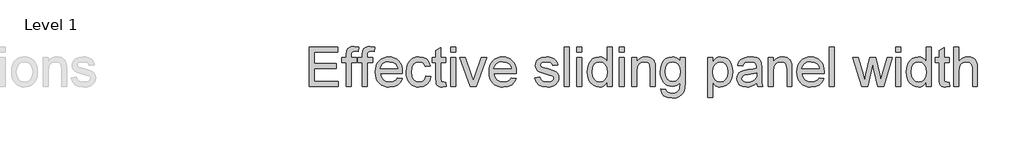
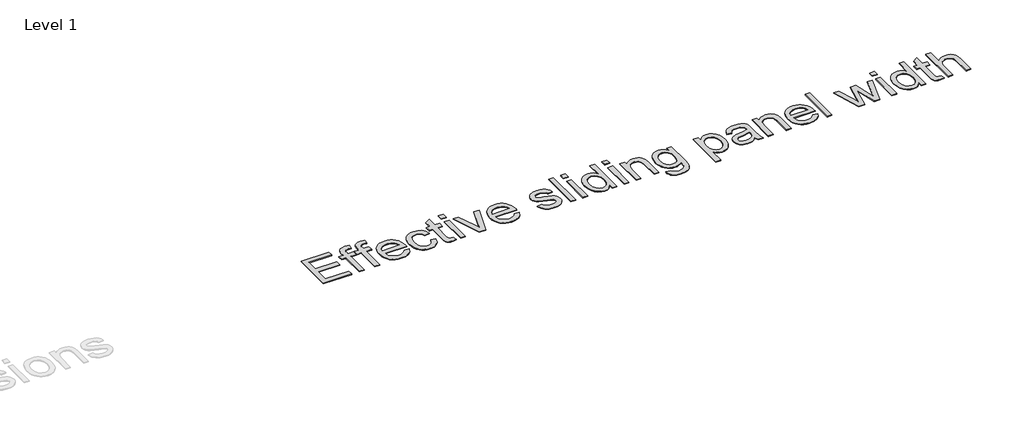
# One storey, part 39 of 69: 1 proxy.
"""IFC4 building model written with IfcOpenShell, lengths in millimetres."""

from ifc_helpers import new_model, si_unit, origin, origin_with_axes, place, context, project, spatial, polyline, outline, extrude, element, save

model = new_model("IFC4")

# Units and contexts
model_context = context("Model", 3, world=origin())
ifc_project = project(units=[si_unit("LENGTHUNIT", "METRE", prefix="MILLI")], contexts=[model_context])

# Site, building, storey
site = spatial("IfcSite", under=ifc_project)
building = spatial("IfcBuilding", under=site)
storey = spatial("IfcBuildingStorey", under=building, Name="Level 1", Elevation=0.0)

# Proxy
placement = place(None, origin())
element("IfcBuildingElementProxy", 1, Name="300mm Arial", ObjectType="300mm Arial", at=placement, inside=storey, context=model_context, shape_type="SweptSolid", body=[
    extrude(outline(polyline([(239630.4854675, -7149.8638198), (239630.4854675, -6848.4948894), (239847.0943862, -6848.4948894), (239847.0943862, -6886.1660057), (239668.1565838, -6886.1660057), (239668.1565838, -6975.6349069), (239837.6766072, -6975.6349069), (239837.6766072, -7013.3060232), (239668.1565838, -7013.3060232), (239668.1565838, -7112.1927035), (239851.8032758, -7112.1927035), (239851.8032758, -7149.8638198), (239630.4854675, -7149.8638198)])), origin_with_axes(), (0.0, 0.0, 1.0), 5.0),
    extrude(outline(polyline([(239913.0188398, -7149.8638198), (239913.0188398, -6966.2171278), (239880.056613, -6966.2171278), (239880.056613, -6928.5460115), (239913.0188398, -6928.5460115), (239913.0188398, -6906.2523626), (239916.9919653, -6874.8352402), (239924.5703344, -6862.3088583), (239936.2689819, -6852.3944385), (239952.6397307, -6845.9381095), (239974.2344038, -6843.7859998), (240008.5945821, -6847.9062782), (240003.0763522, -6883.2229497), (239981.3713145, -6881.4571161), (239967.0515078, -6883.0206146), (239957.6429258, -6887.7111101), (239952.4281985, -6896.6690366), (239950.6899561, -6911.0348286), (239950.6899561, -6928.5460115), (239993.0699619, -6928.5460115), (239993.0699619, -6966.2171278), (239950.6899561, -6966.2171278), (239950.6899561, -7149.8638198), (239913.0188398, -7149.8638198)])), origin_with_axes(), (0.0, 0.0, 1.0), 5.0),
    extrude(outline(polyline([(240035.4499678, -7149.8638198), (240035.4499678, -6966.2171278), (240002.487741, -6966.2171278), (240002.487741, -6928.5460115), (240035.4499678, -6928.5460115), (240035.4499678, -6906.2523626), (240039.4230933, -6874.8352402), (240047.0014624, -6862.3088583), (240058.7001099, -6852.3944385), (240075.0708587, -6845.9381095), (240096.6655318, -6843.7859998), (240131.0257101, -6847.9062782), (240125.5074802, -6883.2229497), (240103.8024425, -6881.4571161), (240089.4826358, -6883.0206146), (240080.0740538, -6887.7111101), (240074.8593265, -6896.6690366), (240073.1210841, -6911.0348286), (240073.1210841, -6928.5460115), (240115.5010899, -6928.5460115), (240115.5010899, -6966.2171278), (240073.1210841, -6966.2171278), (240073.1210841, -7149.8638198), (240035.4499678, -7149.8638198)])), origin_with_axes(), (0.0, 0.0, 1.0), 5.0),
    extrude(outline(polyline([(240303.4152131, -7083.9393663), (240340.3505654, -7088.6482558), (240327.0424342, -7116.4785288), (240305.806446, -7137.2822556), (240277.1208475, -7150.2500959), (240241.4638851, -7154.5727094), (240218.0895828, -7152.7080075), (240197.2628634, -7147.1139019), (240178.9837267, -7137.7903926), (240163.2521729, -7124.7374796), (240150.6016308, -7108.3184463), (240141.5655293, -7088.8965762), (240136.1438684, -7066.4718693), (240134.3366481, -7041.0443257), (240136.1622625, -7014.7545586), (240141.6391057, -6991.5825914), (240150.7671777, -6971.5284241), (240163.5464785, -6954.5920568), (240179.2366456, -6941.1367728), (240197.0973165, -6931.5258557), (240217.1284911, -6925.7593054), (240239.3301695, -6923.837122), (240260.8167773, -6925.7547069), (240280.2478444, -6931.5074616), (240297.6233709, -6941.0953861), (240312.9433567, -6954.5184804), (240325.4490453, -6971.4180595), (240334.38168, -6991.4354386), (240339.7412608, -7014.5706176), (240341.5277878, -7040.8235965), (240341.3070586, -7050.9771395), (240172.0077644, -7050.9771395), (240178.5284728, -7079.1752945), (240193.6760139, -7099.9054449), (240215.5374015, -7112.652556), (240242.1996491, -7116.9015931), (240262.2492178, -7114.9334244), (240279.1350014, -7109.0289184), (240292.8569998, -7098.820193), (240303.4152131, -7083.9393663)]), holes=[polyline([(240172.0077644, -7013.3060232), (240303.8566715, -7013.3060232), (240298.7615058, -6993.4036073), (240288.7735097, -6979.1665741), (240266.8109545, -6965.9228222), (240239.1830167, -6961.5082383), (240213.789962, -6965.0307084), (240192.7930971, -6975.5981187), (240178.197379, -6992.070035), (240172.0077644, -7013.3060232)])]), origin_with_axes(), (0.0, 0.0, 1.0), 5.0),
    extrude(outline(polyline([(240520.4655902, -7069.8126977), (240558.1367065, -7074.5215872), (240547.6336756, -7108.0264399), (240527.8968065, -7133.3459182), (240500.7839035, -7149.2660116), (240468.1527705, -7154.5727094), (240447.0248477, -7152.7218031), (240428.0812242, -7147.1690842), (240411.3219, -7137.9145528), (240396.7468752, -7124.9582088), (240384.9493595, -7108.543774), (240376.5225626, -7088.9149703), (240371.4664844, -7066.0717976), (240369.781125, -7040.0142561), (240372.6598016, -7006.4910093), (240381.2958314, -6977.4375287), (240395.8271703, -6953.9758544), (240416.3917738, -6937.2280266), (240440.9938822, -6927.1848481), (240467.6377357, -6923.837122), (240499.4687253, -6928.4356469), (240524.9169624, -6942.2312218), (240543.1731064, -6964.4880825), (240553.427817, -6994.4704651), (240515.7567007, -6999.1793546), (240508.9232926, -6982.7442265), (240498.2823059, -6970.9628056), (240484.4223517, -6963.8718801), (240467.9320413, -6961.5082383), (240443.5874503, -6966.1619455), (240424.2644485, -6980.1230673), (240411.6552931, -7004.1457615), (240407.4522413, -7038.9841865), (240411.5633226, -7074.291661), (240423.8965665, -7098.3971287), (240442.8700804, -7112.275477), (240466.9019717, -7116.9015931), (240486.4089145, -7114.0137194), (240502.4025843, -7105.3500984), (240514.0368524, -7090.6900009), (240520.4655902, -7069.8126977)])), origin_with_axes(), (0.0, 0.0, 1.0), 5.0),
    extrude(outline(polyline([(240671.1500554, -7118.4466974), (240675.858945, -7150.9674658), (240647.6791842, -7154.5727094), (240629.5977841, -7153.0092109), (240616.114909, -7148.3187154), (240606.5867653, -7141.0898342), (240600.3695596, -7131.9111785), (240596.948257, -7116.147435), (240595.8078228, -7089.1632906), (240595.8078228, -6966.2171278), (240567.5544856, -6966.2171278), (240567.5544856, -6928.5460115), (240595.8078228, -6928.5460115), (240595.8078228, -6874.7616638), (240633.4789391, -6852.6151677), (240633.4789391, -6928.5460115), (240671.1500554, -6928.5460115), (240671.1500554, -6966.2171278), (240633.4789391, -6966.2171278), (240633.4789391, -7088.0596446), (240635.4655019, -7107.483814), (240641.9034368, -7114.3632073), (240654.7425185, -7116.9015931), (240671.1500554, -7118.4466974)])), origin_with_axes(), (0.0, 0.0, 1.0), 5.0),
    extrude(outline(polyline([(240708.8211718, -6886.1660057), (240708.8211718, -6848.4948894), (240746.4922881, -6848.4948894), (240746.4922881, -6886.1660057), (240708.8211718, -6886.1660057)])), origin_with_axes(), (0.0, 0.0, 1.0), 5.0),
    extrude(outline(polyline([(240708.8211718, -7149.8638198), (240708.8211718, -6928.5460115), (240746.4922881, -6928.5460115), (240746.4922881, -7149.8638198), (240708.8211718, -7149.8638198)])), origin_with_axes(), (0.0, 0.0, 1.0), 5.0),
    extrude(outline(polyline([(240857.298345, -7149.8638198), (240779.4545148, -6928.5460115), (240819.3329231, -6928.5460115), (240866.4953949, -7061.1306826), (240880.6956399, -7105.7179804), (240894.6015793, -7063.6322802), (240942.0583567, -6928.5460115), (240981.936765, -6928.5460115), (240905.049428, -7149.8638198), (240857.298345, -7149.8638198)])), origin_with_axes(), (0.0, 0.0, 1.0), 5.0),
    extrude(outline(polyline([(241169.8508881, -7083.9393663), (241206.7862404, -7088.6482558), (241193.4781092, -7116.4785288), (241172.2421211, -7137.2822556), (241143.5565225, -7150.2500959), (241107.8995601, -7154.5727094), (241084.5252578, -7152.7080075), (241063.6985384, -7147.1139019), (241045.4194018, -7137.7903926), (241029.6878479, -7124.7374796), (241017.0373058, -7108.3184463), (241008.0012043, -7088.8965762), (241002.5795434, -7066.4718693), (241000.7723231, -7041.0443257), (241002.5979375, -7014.7545586), (241008.0747807, -6991.5825914), (241017.2028527, -6971.5284241), (241029.9821535, -6954.5920568), (241045.6723206, -6941.1367728), (241063.5329915, -6931.5258557), (241083.5641661, -6925.7593054), (241105.7658445, -6923.837122), (241127.2524523, -6925.7547069), (241146.6835195, -6931.5074616), (241164.0590459, -6941.0953861), (241179.3790318, -6954.5184804), (241191.8847204, -6971.4180595), (241200.8173551, -6991.4354386), (241206.1769359, -7014.5706176), (241207.9634628, -7040.8235965), (241207.7427336, -7050.9771395), (241038.4434394, -7050.9771395), (241044.9641478, -7079.1752945), (241060.1116889, -7099.9054449), (241081.9730765, -7112.652556), (241108.6353241, -7116.9015931), (241128.6848928, -7114.9334244), (241145.5706764, -7109.0289184), (241159.2926748, -7098.820193), (241169.8508881, -7083.9393663)]), holes=[polyline([(241038.4434394, -7013.3060232), (241170.2923465, -7013.3060232), (241165.1971809, -6993.4036073), (241155.2091847, -6979.1665741), (241133.2466296, -6965.9228222), (241105.6186917, -6961.5082383), (241080.225637, -6965.0307084), (241059.2287722, -6975.5981187), (241044.633054, -6992.070035), (241038.4434394, -7013.3060232)])]), origin_with_axes(), (0.0, 0.0, 1.0), 5.0),
    extrude(outline(polyline([(241349.230149, -7083.9393663), (241386.9012653, -7079.2304768), (241392.8425595, -7095.3437081), (241404.3388718, -7107.1895084), (241421.4637787, -7114.4735719), (241444.2908565, -7116.9015931), (241466.8420228, -7114.675907), (241482.6977368, -7107.9988488), (241492.0787277, -7098.3235523), (241495.2057246, -7087.1031515), (241492.0603336, -7077.5014314), (241482.6241604, -7070.1805797), (241443.8493981, -7059.4384254), (241387.1219945, -7041.0075375), (241372.7653996, -7031.7461082), (241362.3635362, -7019.4864407), (241356.0451629, -7005.0102842), (241353.9390385, -6989.0993879), (241355.6312957, -6974.5036698), (241360.7080672, -6961.0299917), (241368.7095006, -6949.2117826), (241379.1757434, -6939.5824714), (241403.1248612, -6928.4356469), (241435.535265, -6923.837122), (241460.0546, -6925.685729), (241481.3733616, -6931.2315501), (241498.5166626, -6939.9319593), (241510.5096156, -6951.2443306), (241518.4558667, -6966.0055957), (241523.4590619, -6985.052686), (241485.7879456, -6989.7615755), (241481.0330708, -6977.9065782), (241471.6244887, -6968.9762428), (241457.470229, -6963.3752394), (241438.478321, -6961.5082383), (241416.8468597, -6963.292466), (241402.4258855, -6968.645149), (241394.3140875, -6976.3706709), (241391.6101548, -6985.2734152), (241396.0983151, -6996.2362986), (241410.1514074, -7004.5504317), (241442.5985993, -7012.5702592), (241497.8912632, -7030.3021714), (241512.4961784, -7038.7818514), (241523.5694265, -7050.3885283), (241530.5499873, -7065.1589904), (241532.8768409, -7083.1300259), (241530.1453171, -7101.7080667), (241521.9507457, -7119.1824614), (241508.6058263, -7134.1828498), (241490.4232587, -7145.3388713), (241468.4607036, -7152.2642498), (241443.7758217, -7154.5727094), (241405.7920057, -7150.1213372), (241378.0720974, -7136.7672208), (241359.567633, -7114.6575129), (241349.230149, -7083.9393663)])), origin_with_axes(), (0.0, 0.0, 1.0), 5.0),
    extrude(outline(polyline([(241575.2568468, -7149.8638198), (241575.2568468, -6848.4948894), (241612.9279631, -6848.4948894), (241612.9279631, -7149.8638198), (241575.2568468, -7149.8638198)])), origin_with_axes(), (0.0, 0.0, 1.0), 5.0),
    extrude(outline(polyline([(241669.4346376, -7149.8638198), (241669.4346376, -6928.5460115), (241707.1057539, -6928.5460115), (241707.1057539, -7149.8638198), (241669.4346376, -7149.8638198)])), origin_with_axes(), (0.0, 0.0, 1.0), 5.0),
    extrude(outline(polyline([(241669.4346376, -6886.1660057), (241669.4346376, -6848.4948894), (241707.1057539, -6848.4948894), (241707.1057539, -6886.1660057), (241669.4346376, -6886.1660057)])), origin_with_axes(), (0.0, 0.0, 1.0), 5.0),
    extrude(outline(polyline([(241900.1702249, -7149.8638198), (241900.1702249, -7114.3264191), (241888.8992403, -7131.9341711), (241875.2462198, -7144.5111368), (241859.2111633, -7152.0573162), (241840.7940709, -7154.5727094), (241816.4402828, -7150.9306776), (241794.1466339, -7140.0045824), (241775.2742876, -7122.5577787), (241761.1844072, -7099.3536219), (241752.4104216, -7071.3302109), (241749.4857597, -7039.4256449), (241752.1804953, -7007.916552), (241760.2647022, -6979.4608797), (241773.7291832, -6955.6773087), (241792.5647413, -6938.1845198), (241815.3458339, -6927.4239714), (241840.6469181, -6923.837122), (241859.0778061, -6926.4030989), (241875.3749785, -6934.1010297), (241889.1889474, -6945.9008447), (241900.1702249, -6960.7724743), (241900.1702249, -6848.4948894), (241937.8413412, -6848.4948894), (241937.8413412, -7149.8638198), (241900.1702249, -7149.8638198)]), holes=[polyline([(241787.156876, -7039.2784921), (241791.4059131, -7073.3535619), (241804.1530242, -7097.5877883), (241822.6758826, -7112.0731419), (241844.2521617, -7116.9015931), (241865.8192436, -7112.2938711), (241883.8730525, -7098.4707051), (241896.0959318, -7075.1745778), (241900.1702249, -7042.1479716), (241896.0223554, -7006.0403538), (241883.5787469, -6981.005984), (241865.0650855, -6966.3826747), (241842.7070573, -6961.5082383), (241820.9100491, -6966.1895367), (241803.0493782, -6980.2334319), (241791.1300016, -7004.3572937), (241787.156876, -7039.2784921)])]), origin_with_axes(), (0.0, 0.0, 1.0), 5.0),
    extrude(outline(polyline([(241994.3480157, -6886.1660057), (241994.3480157, -6848.4948894), (242032.019132, -6848.4948894), (242032.019132, -6886.1660057), (241994.3480157, -6886.1660057)])), origin_with_axes(), (0.0, 0.0, 1.0), 5.0),
    extrude(outline(polyline([(241994.3480157, -7149.8638198), (241994.3480157, -6928.5460115), (242032.019132, -6928.5460115), (242032.019132, -7149.8638198), (241994.3480157, -7149.8638198)])), origin_with_axes(), (0.0, 0.0, 1.0), 5.0),
    extrude(outline(polyline([(242088.5258065, -7149.8638198), (242088.5258065, -6928.5460115), (242126.1969228, -6928.5460115), (242126.1969228, -6959.4480991), (242139.2843247, -6943.8682966), (242155.002083, -6932.7398663), (242173.3501975, -6926.0628081), (242194.3286683, -6923.837122), (242212.897512, -6925.6305467), (242229.9028572, -6931.0108209), (242244.0847081, -6939.3065599), (242254.1830689, -6949.8463791), (242265.4770461, -6977.5478933), (242267.4636089, -7013.9682108), (242267.4636089, -7149.8638198), (242229.7924926, -7149.8638198), (242229.7924926, -7019.0449823), (242225.4514851, -6985.7148736), (242219.4458115, -6975.7912568), (242210.1108059, -6968.093326), (242198.145444, -6963.1545102), (242184.2487016, -6961.5082383), (242162.1849789, -6965.2054523), (242143.3770119, -6976.2970945), (242135.8607229, -6985.3515901), (242130.4919451, -6997.7262207), (242126.1969228, -7032.435887), (242126.1969228, -7149.8638198), (242088.5258065, -7149.8638198)])), origin_with_axes(), (0.0, 0.0, 1.0), 5.0),
    extrude(outline(polyline([(242309.8436148, -7168.699378), (242347.5147311, -7173.4082675), (242351.6717976, -7185.1804914), (242359.7284133, -7193.2738953), (242375.5657332, -7199.5646774), (242396.2958836, -7201.6616047), (242418.4055915, -7199.2887659), (242434.8499167, -7192.1702493), (242446.2542586, -7180.7659074), (242453.2440165, -7165.5355928), (242455.8191904, -7121.6104826), (242443.2836115, -7133.9713176), (242429.2948986, -7142.8004855), (242413.8530518, -7148.0979863), (242396.9580712, -7149.8638198), (242376.3037965, -7147.8082792), (242358.1189296, -7141.6416572), (242342.4034706, -7131.363954), (242329.1574195, -7116.9751695), (242318.6474908, -7099.7123068), (242311.1403988, -7080.8123693), (242306.6361436, -7060.275357), (242305.1347252, -7038.1012697), (242307.8294608, -7007.6866257), (242315.9136677, -6979.7183971), (242329.1022372, -6956.0175995), (242347.1100609, -6938.405249), (242369.3209363, -6927.4791537), (242395.1186612, -6923.837122), (242412.7356103, -6925.8972612), (242428.7246815, -6932.0776787), (242443.0858749, -6942.3783745), (242455.8191904, -6956.7993488), (242455.8191904, -6928.5460115), (242493.4903068, -6928.5460115), (242493.4903068, -7119.6239198), (242490.9151328, -7163.7421681), (242483.1896109, -7192.7956487), (242469.8814797, -7212.0634682), (242450.5584779, -7226.8247332), (242425.6436698, -7236.2057241), (242395.5601196, -7239.3327211), (242360.5101625, -7234.9273342), (242332.9098159, -7221.7111735), (242322.5148502, -7211.7898559), (242315.2054948, -7199.6474508), (242310.9817497, -7185.2839582), (242309.8436148, -7168.699378)]), holes=[polyline([(242342.8058415, -7035.5260957), (242346.8249523, -7070.0794121), (242358.8822847, -7093.835392), (242377.00967, -7107.6033756), (242399.2389396, -7112.1927035), (242421.3026622, -7107.6309668), (242439.5220181, -7093.9457566), (242451.7448973, -7070.4932794), (242455.8191904, -7036.6297417), (242451.6253357, -7003.9710176), (242439.0437715, -6980.454161), (242420.5577012, -6966.244719), (242398.6503284, -6961.5082383), (242377.1384287, -6966.1711426), (242359.1030139, -6980.1598555), (242346.8801346, -7003.3272241), (242342.8058415, -7035.5260957)])]), origin_with_axes(), (0.0, 0.0, 1.0), 5.0),
    extrude(outline(polyline([(242667.7192197, -7234.6238315), (242667.7192197, -6928.5460115), (242705.390336, -6928.5460115), (242705.390336, -6965.4813638), (242717.6775946, -6947.262008), (242731.4363812, -6934.2481825), (242747.4760362, -6926.4398871), (242766.6059, -6923.837122), (242792.0817281, -6927.4791537), (242814.3569829, -6938.405249), (242832.4935653, -6955.9532202), (242845.5533761, -6979.4608797), (242853.4444449, -7007.2175762), (242856.0748012, -7037.5126585), (242853.1041541, -7069.7299242), (242844.1922128, -7098.5442815), (242829.6240857, -7122.4933994), (242809.6848816, -7140.114947), (242786.4623307, -7150.9582688), (242762.0441632, -7154.5727094), (242744.7261183, -7152.1538852), (242729.2658775, -7144.8974129), (242716.0313227, -7133.9437265), (242705.390336, -7120.4332602), (242705.390336, -7234.6238315), (242667.7192197, -7234.6238315)]), holes=[polyline([(242705.390336, -7040.9707493), (242709.4646291, -7074.7423164), (242721.6875084, -7098.3603405), (242739.7229232, -7112.2662799), (242761.2348228, -7116.9015931), (242783.0962104, -7112.100733), (242801.5914777, -7097.6981529), (242814.2006331, -7073.2156061), (242818.4036849, -7038.1748461), (242814.3018006, -7004.5872199), (242801.9961479, -6980.638102), (242783.9883242, -6966.2907042), (242762.7799272, -6961.5082383), (242741.4887568, -6966.5942069), (242722.7911543, -6981.8521126), (242709.7405406, -7006.803709), (242705.390336, -7040.9707493)])]), origin_with_axes(), (0.0, 0.0, 1.0), 5.0),
    extrude(outline(polyline([(243039.7214932, -7121.6104826), (243021.7228666, -7137.0431323), (243003.1908111, -7147.1414931), (242983.7022624, -7152.7149053), (242962.8341562, -7154.5727094), (242931.3526545, -7150.1029431), (242908.1301035, -7136.6936444), (242893.8102969, -7116.331376), (242889.037028, -7091.0027006), (242890.8396497, -7075.3861099), (242896.2475151, -7061.204259), (242904.5892393, -7049.0641532), (242915.1934378, -7039.5727977), (242941.5705769, -7027.2119626), (242974.1649217, -7021.5465799), (243012.6821665, -7015.5868916), (243039.500764, -7008.5971337), (243039.7214932, -7000.2094242), (243037.1279251, -6983.397217), (243029.3472209, -6972.3975454), (243011.9464026, -6964.2305651), (242987.7029791, -6961.5082383), (242965.2621774, -6963.3200571), (242949.5904044, -6968.7555136), (242938.9034324, -6978.8078891), (242931.4170338, -6994.4704651), (242893.7459175, -6989.7615755), (242900.28502, -6969.1601838), (242910.0430899, -6952.973376), (242923.9306352, -6940.5941469), (242942.8581639, -6931.4154911), (242966.0071384, -6925.7317143), (242992.5590214, -6923.837122), (243018.0256525, -6925.5109851), (243038.213177, -6930.5325743), (243053.4342946, -6938.0833523), (243064.0017049, -6947.3447815), (243071.0098569, -6958.7951086), (243075.5531995, -6972.9125801), (243077.3926095, -7005.8748069), (243077.3926095, -7052.7429731), (243079.3055959, -7118.18918), (243086.8103886, -7149.8638198), (243049.1392723, -7149.8638198), (243039.7214932, -7121.6104826)]), holes=[polyline([(243039.7214932, -7046.26825), (242978.9473876, -7057.8197446), (242946.5369838, -7063.9265858), (242931.8584922, -7073.8593996), (242926.7081443, -7088.3539502), (242929.5132445, -7099.555957), (242937.9285451, -7108.7346128), (242951.7701052, -7114.859848), (242970.8539837, -7116.9015931), (242991.0874934, -7114.6483158), (243008.9665584, -7107.8884842), (243023.461109, -7097.9280792), (243033.5410757, -7086.0730819), (243038.0108419, -7073.8593996), (243039.500764, -7056.9368278), (243039.7214932, -7046.26825)])]), origin_with_axes(), (0.0, 0.0, 1.0), 5.0),
    extrude(outline(polyline([(243129.1903944, -7149.8638198), (243129.1903944, -6928.5460115), (243166.8615107, -6928.5460115), (243166.8615107, -6959.4480991), (243179.9489127, -6943.8682966), (243195.6666709, -6932.7398663), (243214.0147855, -6926.0628081), (243234.9932562, -6923.837122), (243253.5620999, -6925.6305467), (243270.5674452, -6931.0108209), (243284.7492961, -6939.3065599), (243294.8476568, -6949.8463791), (243306.1416341, -6977.5478933), (243308.1281969, -7013.9682108), (243308.1281969, -7149.8638198), (243270.4570806, -7149.8638198), (243270.4570806, -7019.0449823), (243266.116073, -6985.7148736), (243260.1103995, -6975.7912568), (243250.7753938, -6968.093326), (243238.8100319, -6963.1545102), (243224.9132896, -6961.5082383), (243202.8495669, -6965.2054523), (243184.0415999, -6976.2970945), (243176.5253109, -6985.3515901), (243171.156533, -6997.7262207), (243166.8615107, -7032.435887), (243166.8615107, -7149.8638198), (243129.1903944, -7149.8638198)])), origin_with_axes(), (0.0, 0.0, 1.0), 5.0),
    extrude(outline(polyline([(243514.8778782, -7083.9393663), (243551.8132305, -7088.6482558), (243538.5050993, -7116.4785288), (243517.2691111, -7137.2822556), (243488.5835126, -7150.2500959), (243452.9265502, -7154.5727094), (243429.5522479, -7152.7080075), (243408.7255285, -7147.1139019), (243390.4463918, -7137.7903926), (243374.714838, -7124.7374796), (243362.0642959, -7108.3184463), (243353.0281944, -7088.8965762), (243347.6065335, -7066.4718693), (243345.7993132, -7041.0443257), (243347.6249276, -7014.7545586), (243353.1017708, -6991.5825914), (243362.2298428, -6971.5284241), (243375.0091436, -6954.5920568), (243390.6993107, -6941.1367728), (243408.5599816, -6931.5258557), (243428.5911562, -6925.7593054), (243450.7928346, -6923.837122), (243472.2794424, -6925.7547069), (243491.7105095, -6931.5074616), (243509.086036, -6941.0953861), (243524.4060218, -6954.5184804), (243536.9117104, -6971.4180595), (243545.8443451, -6991.4354386), (243551.2039259, -7014.5706176), (243552.9904529, -7040.8235965), (243552.7697237, -7050.9771395), (243383.4704295, -7050.9771395), (243389.9911378, -7079.1752945), (243405.138679, -7099.9054449), (243427.0000666, -7112.652556), (243453.6623142, -7116.9015931), (243473.7118829, -7114.9334244), (243490.5976665, -7109.0289184), (243504.3196649, -7098.820193), (243514.8778782, -7083.9393663)]), holes=[polyline([(243383.4704295, -7013.3060232), (243515.3193366, -7013.3060232), (243510.2241709, -6993.4036073), (243500.2361748, -6979.1665741), (243478.2736196, -6965.9228222), (243450.6456818, -6961.5082383), (243425.2526271, -6965.0307084), (243404.2557622, -6975.5981187), (243389.6600441, -6992.070035), (243383.4704295, -7013.3060232)])]), origin_with_axes(), (0.0, 0.0, 1.0), 5.0),
    extrude(outline(polyline([(243590.6615692, -7149.8638198), (243590.6615692, -6848.4948894), (243628.3326855, -6848.4948894), (243628.3326855, -7149.8638198), (243590.6615692, -7149.8638198)])), origin_with_axes(), (0.0, 0.0, 1.0), 5.0),
    extrude(outline(polyline([(243839.2762215, -7149.8638198), (243771.9538164, -6928.5460115), (243811.0964607, -6928.5460115), (243849.2826118, -7057.6725918), (243860.6869536, -7103.804994), (243870.0311563, -7059.364849), (243900.4182091, -6928.5460115), (243945.2998125, -6928.5460115), (243975.5397125, -7058.996967), (243983.8538456, -7099.2432573), (243995.7732223, -7056.789675), (244034.0329498, -6928.5460115), (244073.3227468, -6928.5460115), (244005.4853069, -7149.8638198), (243959.9415159, -7149.8638198), (243931.0259911, -7020.0750519), (243922.6382816, -6979.6080325), (243885.3350473, -7149.8638198), (243839.2762215, -7149.8638198)])), origin_with_axes(), (0.0, 0.0, 1.0), 5.0),
    extrude(outline(polyline([(244099.2216393, -7149.8638198), (244099.2216393, -6928.5460115), (244136.8927556, -6928.5460115), (244136.8927556, -7149.8638198), (244099.2216393, -7149.8638198)])), origin_with_axes(), (0.0, 0.0, 1.0), 5.0),
    extrude(outline(polyline([(244099.2216393, -6886.1660057), (244099.2216393, -6848.4948894), (244136.8927556, -6848.4948894), (244136.8927556, -6886.1660057), (244099.2216393, -6886.1660057)])), origin_with_axes(), (0.0, 0.0, 1.0), 5.0),
    extrude(outline(polyline([(244329.9572267, -7149.8638198), (244329.9572267, -7114.3264191), (244318.686242, -7131.9341711), (244305.0332215, -7144.5111368), (244288.998165, -7152.0573162), (244270.5810727, -7154.5727094), (244246.2272846, -7150.9306776), (244223.9336357, -7140.0045824), (244205.0612893, -7122.5577787), (244190.9714089, -7099.3536219), (244182.1974233, -7071.3302109), (244179.2727615, -7039.4256449), (244181.9674971, -7007.916552), (244190.0517039, -6979.4608797), (244203.5161849, -6955.6773087), (244222.3517431, -6938.1845198), (244245.1328356, -6927.4239714), (244270.4339199, -6923.837122), (244288.8648078, -6926.4030989), (244305.1619802, -6934.1010297), (244318.9759491, -6945.9008447), (244329.9572267, -6960.7724743), (244329.9572267, -6848.4948894), (244367.628343, -6848.4948894), (244367.628343, -7149.8638198), (244329.9572267, -7149.8638198)]), holes=[polyline([(244216.9438778, -7039.2784921), (244221.1929148, -7073.3535619), (244233.9400259, -7097.5877883), (244252.4628844, -7112.0731419), (244274.0391634, -7116.9015931), (244295.6062454, -7112.2938711), (244313.6600543, -7098.4707051), (244325.8829336, -7075.1745778), (244329.9572267, -7042.1479716), (244325.8093572, -7006.0403538), (244313.3657487, -6981.005984), (244294.8520873, -6966.3826747), (244272.494059, -6961.5082383), (244250.6970508, -6966.1895367), (244232.8363799, -6980.2334319), (244220.9170033, -7004.3572937), (244216.9438778, -7039.2784921)])]), origin_with_axes(), (0.0, 0.0, 1.0), 5.0),
    extrude(outline(polyline([(244504.1861396, -7118.4466974), (244508.8950291, -7150.9674658), (244480.7152683, -7154.5727094), (244462.6338682, -7153.0092109), (244449.1509931, -7148.3187154), (244439.6228494, -7141.0898342), (244433.4056437, -7131.9111785), (244429.9843412, -7116.147435), (244428.843907, -7089.1632906), (244428.843907, -6966.2171278), (244400.5905697, -6966.2171278), (244400.5905697, -6928.5460115), (244428.843907, -6928.5460115), (244428.843907, -6874.7616638), (244466.5150233, -6852.6151677), (244466.5150233, -6928.5460115), (244504.1861396, -6928.5460115), (244504.1861396, -6966.2171278), (244466.5150233, -6966.2171278), (244466.5150233, -7088.0596446), (244468.5015861, -7107.483814), (244474.939521, -7114.3632073), (244487.7786026, -7116.9015931), (244504.1861396, -7118.4466974)])), origin_with_axes(), (0.0, 0.0, 1.0), 5.0),
    extrude(outline(polyline([(244541.8572559, -7149.8638198), (244541.8572559, -6848.4948894), (244579.5283722, -6848.4948894), (244579.5283722, -6959.3009463), (244593.3653337, -6943.7855232), (244608.9037495, -6932.7030781), (244626.1436195, -6926.053611), (244645.0849437, -6923.837122), (244667.8384451, -6926.2559461), (244687.3913732, -6933.5124185), (244702.7872347, -6945.036322), (244713.0695365, -6960.2574395), (244718.8636779, -6981.1715309), (244720.7950584, -7009.7743561), (244720.7950584, -7149.8638198), (244683.123942, -7149.8638198), (244683.123942, -7013.6739052), (244680.1257038, -6990.0926693), (244671.130989, -6973.9426497), (244656.6364384, -6964.6168412), (244637.1386926, -6961.5082383), (244621.2185993, -6963.6051657), (244606.2733933, -6969.8959478), (244593.8941641, -6979.7735794), (244585.6720015, -6992.6310551), (244581.0642795, -7009.7191738), (244579.5283722, -7032.2887342), (244579.5283722, -7149.8638198), (244541.8572559, -7149.8638198)])), origin_with_axes(), (0.0, 0.0, 1.0), 5.0),
])

save(model, "model.ifc")
